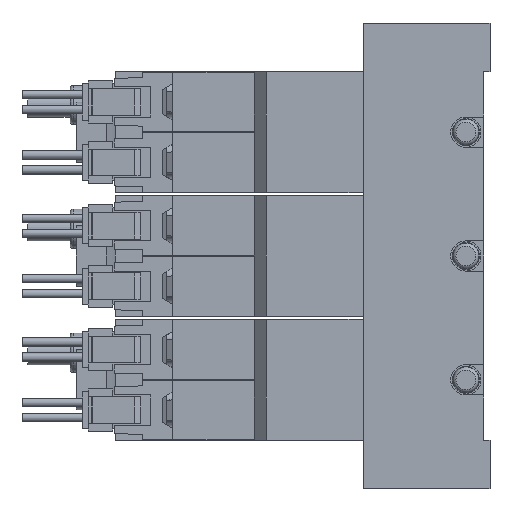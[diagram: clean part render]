
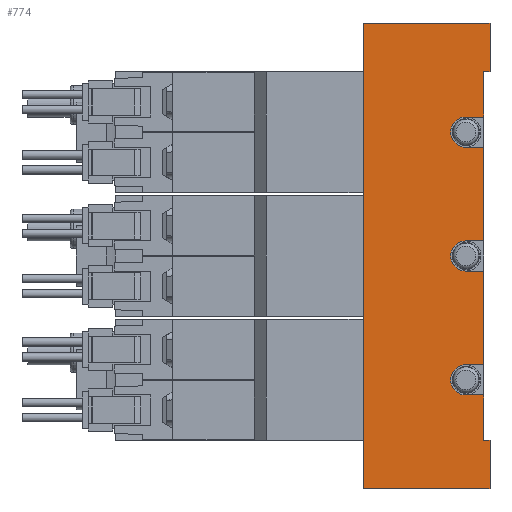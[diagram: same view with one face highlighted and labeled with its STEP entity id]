
A CAD part, left-side view. The second image highlights one B-rep face of the part: STEP entity #774.
In plain terms, the highlighted planar face has unit normal (-1, 0, 0) as drawn and (1, 0, 0) by its records, which use the part's own axes.
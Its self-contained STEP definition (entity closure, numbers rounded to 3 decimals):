
#774=ADVANCED_FACE('',(#1656),#1657,.F.);
#1656=FACE_OUTER_BOUND('',#2658,.T.);
#1657=PLANE('',#2659);
#2658=EDGE_LOOP('',(#5902,#5903,#5904,#5905,#5906,#5907,#5908,#5909,#5910,#5911,#5912,#5913,#5914,#5915,#5916,#5917,#5918,#5919,#5920,#5921));
#2659=AXIS2_PLACEMENT_3D('',#5922,#5923,#5924);
#5902=ORIENTED_EDGE('',*,*,#7329,.T.);
#5903=ORIENTED_EDGE('',*,*,#7330,.T.);
#5904=ORIENTED_EDGE('',*,*,#7331,.F.);
#5905=ORIENTED_EDGE('',*,*,#7332,.F.);
#5906=ORIENTED_EDGE('',*,*,#7333,.T.);
#5907=ORIENTED_EDGE('',*,*,#7334,.T.);
#5908=ORIENTED_EDGE('',*,*,#7335,.T.);
#5909=ORIENTED_EDGE('',*,*,#7336,.F.);
#5910=ORIENTED_EDGE('',*,*,#7337,.F.);
#5911=ORIENTED_EDGE('',*,*,#7338,.F.);
#5912=ORIENTED_EDGE('',*,*,#7339,.T.);
#5913=ORIENTED_EDGE('',*,*,#7340,.F.);
#5914=ORIENTED_EDGE('',*,*,#7341,.F.);
#5915=ORIENTED_EDGE('',*,*,#7342,.F.);
#5916=ORIENTED_EDGE('',*,*,#7343,.T.);
#5917=ORIENTED_EDGE('',*,*,#7318,.F.);
#5918=ORIENTED_EDGE('',*,*,#7344,.F.);
#5919=ORIENTED_EDGE('',*,*,#7345,.F.);
#5920=ORIENTED_EDGE('',*,*,#7346,.T.);
#5921=ORIENTED_EDGE('',*,*,#7347,.T.);
#5922=CARTESIAN_POINT('',(17.5,1.0,38.5));
#5923=DIRECTION('',(-1.0,0.0,0.0));
#5924=DIRECTION('',(0.0,0.0,1.0));
#7318=EDGE_CURVE('',#9061,#9062,#9063,.T.);
#7329=EDGE_CURVE('',#9083,#9084,#9085,.T.);
#7330=EDGE_CURVE('',#9084,#9086,#9087,.T.);
#7331=EDGE_CURVE('',#9088,#9086,#9089,.T.);
#7332=EDGE_CURVE('',#9090,#9088,#9091,.T.);
#7333=EDGE_CURVE('',#9090,#9092,#9093,.T.);
#7334=EDGE_CURVE('',#9092,#9094,#9095,.T.);
#7335=EDGE_CURVE('',#9094,#9096,#9097,.T.);
#7336=EDGE_CURVE('',#9098,#9096,#9099,.T.);
#7337=EDGE_CURVE('',#9100,#9098,#9101,.T.);
#7338=EDGE_CURVE('',#9102,#9100,#9103,.T.);
#7339=EDGE_CURVE('',#9102,#9104,#9105,.T.);
#7340=EDGE_CURVE('',#9106,#9104,#9107,.T.);
#7341=EDGE_CURVE('',#9108,#9106,#9109,.T.);
#7342=EDGE_CURVE('',#9110,#9108,#9111,.T.);
#7343=EDGE_CURVE('',#9110,#9062,#9112,.T.);
#7344=EDGE_CURVE('',#9113,#9061,#9114,.T.);
#7345=EDGE_CURVE('',#9115,#9113,#9116,.T.);
#7346=EDGE_CURVE('',#9115,#9117,#9118,.T.);
#7347=EDGE_CURVE('',#9117,#9083,#9119,.T.);
#9061=VERTEX_POINT('',#11931);
#9062=VERTEX_POINT('',#11932);
#9063=LINE('',#11933,#11934);
#9083=VERTEX_POINT('',#11958);
#9084=VERTEX_POINT('',#11959);
#9085=LINE('',#11960,#11961);
#9086=VERTEX_POINT('',#11962);
#9087=LINE('',#11963,#11964);
#9088=VERTEX_POINT('',#11965);
#9089=LINE('',#11966,#11967);
#9090=VERTEX_POINT('',#11968);
#9091=LINE('',#11969,#11970);
#9092=VERTEX_POINT('',#11971);
#9093=LINE('',#11972,#11973);
#9094=VERTEX_POINT('',#11974);
#9095=LINE('',#11975,#11976);
#9096=VERTEX_POINT('',#11977);
#9097=LINE('',#11978,#11979);
#9098=VERTEX_POINT('',#11980);
#9099=LINE('',#11981,#11982);
#9100=VERTEX_POINT('',#11983);
#9101=CIRCLE('',#11984,2.5);
#9102=VERTEX_POINT('',#11985);
#9103=LINE('',#11986,#11987);
#9104=VERTEX_POINT('',#11988);
#9105=LINE('',#11989,#11990);
#9106=VERTEX_POINT('',#11991);
#9107=LINE('',#11992,#11993);
#9108=VERTEX_POINT('',#11994);
#9109=CIRCLE('',#11995,2.5);
#9110=VERTEX_POINT('',#11996);
#9111=LINE('',#11997,#11998);
#9112=LINE('',#11999,#12000);
#9113=VERTEX_POINT('',#12001);
#9114=CIRCLE('',#12002,2.5);
#9115=VERTEX_POINT('',#12003);
#9116=LINE('',#12004,#12005);
#9117=VERTEX_POINT('',#12006);
#9118=LINE('',#12007,#12008);
#9119=LINE('',#12009,#12010);
#11931=CARTESIAN_POINT('',(17.5,4.0,-18.0));
#11932=CARTESIAN_POINT('',(17.5,1.0,-18.0));
#11933=CARTESIAN_POINT('',(17.5,1.0,-18.0));
#11934=VECTOR('',#13507,1.0);
#11958=CARTESIAN_POINT('',(17.5,0.0,-30.5));
#11959=CARTESIAN_POINT('',(17.5,0.0,-38.5));
#11960=CARTESIAN_POINT('',(17.5,0.0,-30.5));
#11961=VECTOR('',#13530,1.0);
#11962=CARTESIAN_POINT('',(17.5,21.0,-38.5));
#11963=CARTESIAN_POINT('',(17.5,1.0,-38.5));
#11964=VECTOR('',#13531,1.0);
#11965=CARTESIAN_POINT('',(17.5,21.0,38.5));
#11966=CARTESIAN_POINT('',(17.5,21.0,38.5));
#11967=VECTOR('',#13532,1.0);
#11968=CARTESIAN_POINT('',(17.5,0.0,38.5));
#11969=CARTESIAN_POINT('',(17.5,1.0,38.5));
#11970=VECTOR('',#13533,1.0);
#11971=CARTESIAN_POINT('',(17.5,0.0,30.5));
#11972=CARTESIAN_POINT('',(17.5,0.0,38.5));
#11973=VECTOR('',#13534,1.0);
#11974=CARTESIAN_POINT('',(17.5,1.0,30.5));
#11975=CARTESIAN_POINT('',(17.5,0.0,30.5));
#11976=VECTOR('',#13535,1.0);
#11977=CARTESIAN_POINT('',(17.5,1.0,23.0));
#11978=CARTESIAN_POINT('',(17.5,1.0,38.5));
#11979=VECTOR('',#13536,1.0);
#11980=CARTESIAN_POINT('',(17.5,4.0,23.0));
#11981=CARTESIAN_POINT('',(17.5,1.0,23.0));
#11982=VECTOR('',#13537,1.0);
#11983=CARTESIAN_POINT('',(17.5,4.0,18.0));
#11984=AXIS2_PLACEMENT_3D('',#13538,#13539,#13540);
#11985=CARTESIAN_POINT('',(17.5,1.0,18.0));
#11986=CARTESIAN_POINT('',(17.5,1.0,18.0));
#11987=VECTOR('',#13541,1.0);
#11988=CARTESIAN_POINT('',(17.5,1.0,2.5));
#11989=CARTESIAN_POINT('',(17.5,1.0,38.5));
#11990=VECTOR('',#13542,1.0);
#11991=CARTESIAN_POINT('',(17.5,4.0,2.5));
#11992=CARTESIAN_POINT('',(17.5,1.0,2.5));
#11993=VECTOR('',#13543,1.0);
#11994=CARTESIAN_POINT('',(17.5,4.0,-2.5));
#11995=AXIS2_PLACEMENT_3D('',#13544,#13545,#13546);
#11996=CARTESIAN_POINT('',(17.5,1.0,-2.5));
#11997=CARTESIAN_POINT('',(17.5,1.0,-2.5));
#11998=VECTOR('',#13547,1.0);
#11999=CARTESIAN_POINT('',(17.5,1.0,38.5));
#12000=VECTOR('',#13548,1.0);
#12001=CARTESIAN_POINT('',(17.5,4.0,-23.0));
#12002=AXIS2_PLACEMENT_3D('',#13549,#13550,#13551);
#12003=CARTESIAN_POINT('',(17.5,1.0,-23.0));
#12004=CARTESIAN_POINT('',(17.5,1.0,-23.0));
#12005=VECTOR('',#13552,1.0);
#12006=CARTESIAN_POINT('',(17.5,1.0,-30.5));
#12007=CARTESIAN_POINT('',(17.5,1.0,38.5));
#12008=VECTOR('',#13553,1.0);
#12009=CARTESIAN_POINT('',(17.5,4.0,-30.5));
#12010=VECTOR('',#13554,1.0);
#13507=DIRECTION('',(0.0,-1.0,0.0));
#13530=DIRECTION('',(0.0,0.0,-1.0));
#13531=DIRECTION('',(0.0,1.0,0.0));
#13532=DIRECTION('',(0.0,0.0,-1.0));
#13533=DIRECTION('',(0.0,1.0,0.0));
#13534=DIRECTION('',(0.0,0.0,-1.0));
#13535=DIRECTION('',(0.0,1.0,0.0));
#13536=DIRECTION('',(0.0,0.0,-1.0));
#13537=DIRECTION('',(0.0,-1.0,0.0));
#13538=CARTESIAN_POINT('',(17.5,4.0,20.5));
#13539=DIRECTION('',(1.0,0.0,-0.0));
#13540=DIRECTION('',(0.0,0.0,1.0));
#13541=DIRECTION('',(0.0,1.0,0.0));
#13542=DIRECTION('',(0.0,0.0,-1.0));
#13543=DIRECTION('',(0.0,-1.0,0.0));
#13544=CARTESIAN_POINT('',(17.5,4.0,0.0));
#13545=DIRECTION('',(1.0,0.0,-0.0));
#13546=DIRECTION('',(0.0,0.0,1.0));
#13547=DIRECTION('',(0.0,1.0,0.0));
#13548=DIRECTION('',(0.0,0.0,-1.0));
#13549=CARTESIAN_POINT('',(17.5,4.0,-20.5));
#13550=DIRECTION('',(1.0,0.0,-0.0));
#13551=DIRECTION('',(0.0,0.0,1.0));
#13552=DIRECTION('',(0.0,1.0,0.0));
#13553=DIRECTION('',(0.0,0.0,-1.0));
#13554=DIRECTION('',(0.0,-1.0,0.0));
